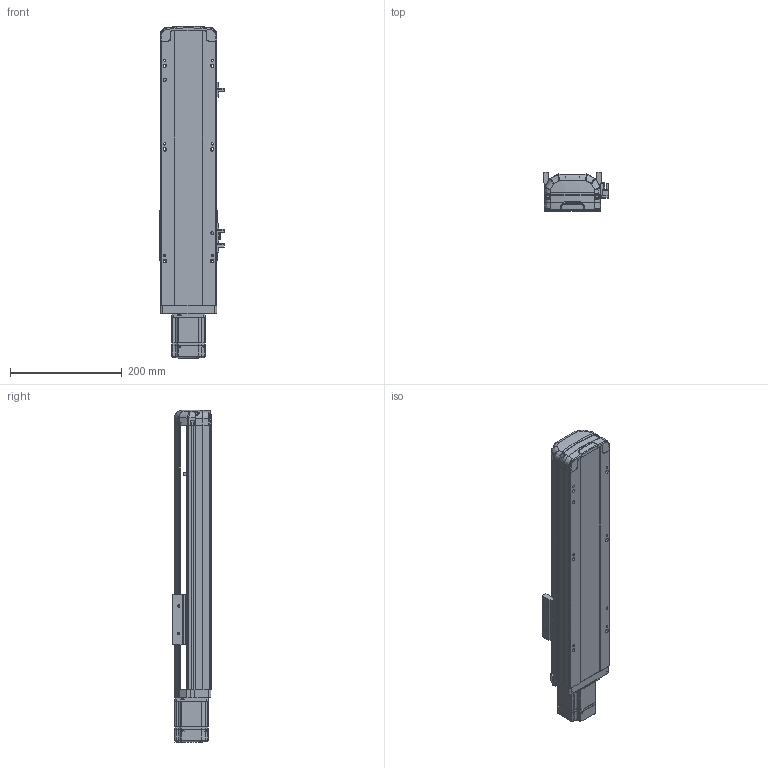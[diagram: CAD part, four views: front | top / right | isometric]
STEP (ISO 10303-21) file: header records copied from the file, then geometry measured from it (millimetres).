
FILE_DESCRIPTION (( 'STEP AP214' ), '1' );
FILE_NAME ('RTH10-XX-250-E-M20-C4.STEP', '2025-10-24T10:42:12', ( '' ), ( '' ), 'SwSTEP 2.0', 'SolidWorks 2018', '' );
FILE_SCHEMA (( 'AUTOMOTIVE_DESIGN' ));
Length unit declared in the file: millimetre
Products named in the file (9): N_RTH12-GY-004-滑座^RTH10-XX-XX-E-M20-C4（方程式）; RTH10-XX-250-E-M20-C4; N_OMRON EE-SX672 換覜ん^RTH10-XX-XX-E-M20-C4ㄗ源最宒ㄘ; N_RTH13-L-012感应片外置^RTH10-XX-XX-E-M20-C4（方程式）; N_RTH12-E-011P-臏倰第菁釱^RTH10-XX-XX-E-M20-C4ㄗ源最宒ㄘ; N_RTH12-E-008-M20电机板^RTH10-XX-XX-E-M20-C4（方程式）; N_RTH12-E-007P-奻裔^RTH10-XX-XX-E-M20-C4ㄗ源最宒ㄘ; N_200W-1^RTH10-XX-XX-E-M20-C4（方程式）; N_RTH12-GY-001P^RTH10-XX-XX-E-M20-C4（方程式）
Assembly tree (10 placements, depth 2):
  RTH10-XX-250-E-M20-C4
    N_RTH12-E-011P-臏倰第菁釱^RTH10-XX-XX-E-M20-C4ㄗ源最宒ㄘ
    N_RTH13-L-012感应片外置^RTH10-XX-XX-E-M20-C4（方程式）
    N_OMRON EE-SX672 換覜ん^RTH10-XX-XX-E-M20-C4ㄗ源最宒ㄘ  x3
    N_RTH12-E-007P-奻裔^RTH10-XX-XX-E-M20-C4ㄗ源最宒ㄘ
    N_RTH12-GY-001P^RTH10-XX-XX-E-M20-C4（方程式）
    N_RTH12-GY-004-滑座^RTH10-XX-XX-E-M20-C4（方程式）
    N_200W-1^RTH10-XX-XX-E-M20-C4（方程式）
    N_RTH12-E-008-M20电机板^RTH10-XX-XX-E-M20-C4（方程式）
Bounding box: 116.5 x 70 x 595.31 mm (x, y, z)
Volume: 2336285 mm3; surface area: 382573.3 mm2
Topology: 9 solids, 11 shells, 1968 faces, 5452 edges, 3578 vertices
Faces by surface type: plane 1000, bspline 472, cylinder 461, cone 33, torus 2
Entity records: 58798 total; most frequent: CARTESIAN_POINT 23098, ORIENTED_EDGE 7984, DIRECTION 6168, EDGE_CURVE 3998, VERTEX_POINT 2622, LINE 2176, VECTOR 2176, AXIS2_PLACEMENT_3D 1996
